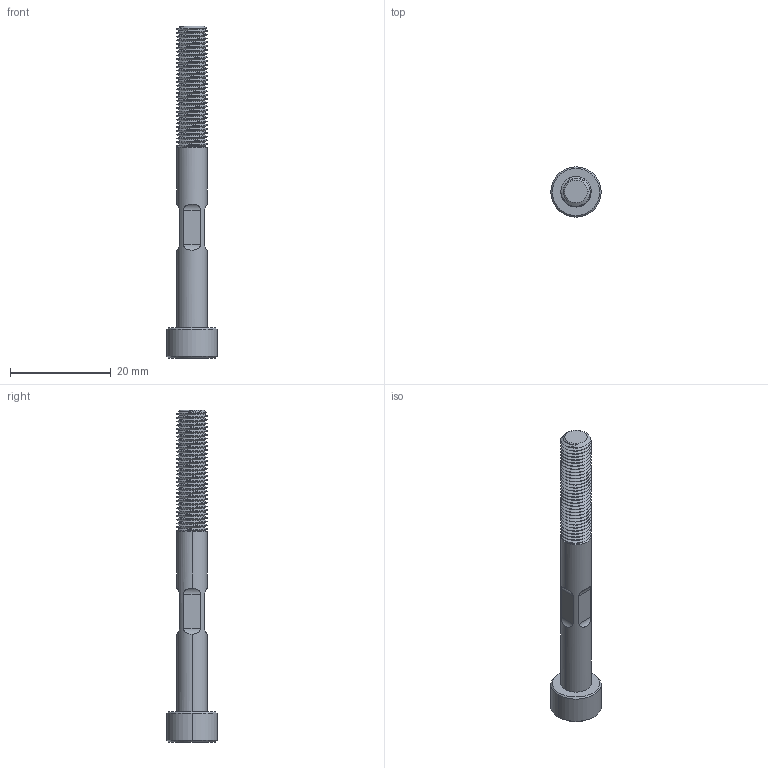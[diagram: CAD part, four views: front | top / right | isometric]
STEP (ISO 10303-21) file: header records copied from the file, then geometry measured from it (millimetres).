
FILE_DESCRIPTION (( 'STEP AP214' ), '1' );
FILE_NAME ('96144A160_M6 bolt machined for strain gauges.STEP', '2023-11-02T16:03:25', ( '' ), ( '' ), 'SwSTEP 2.0', 'SolidWorks 2023', '' );
FILE_SCHEMA (( 'AUTOMOTIVE_DESIGN' ));
Length unit declared in the file: metre
Products named in the file (1): 96144A160_M6 bolt machined for strain gauges
Bounding box: 10 x 10 x 66 mm (x, y, z)
Volume: 1940.5 mm3; surface area: 1789.2 mm2
Topology: 1 solids, 1 shells, 173 faces, 483 edges, 316 vertices
Faces by surface type: cylinder 140, cone 16, plane 15, bspline 2
Entity records: 10969 total; most frequent: CARTESIAN_POINT 7320, ORIENTED_EDGE 966, DIRECTION 566, EDGE_CURVE 483, VERTEX_POINT 316, AXIS2_PLACEMENT_3D 198, EDGE_LOOP 177, ADVANCED_FACE 173
